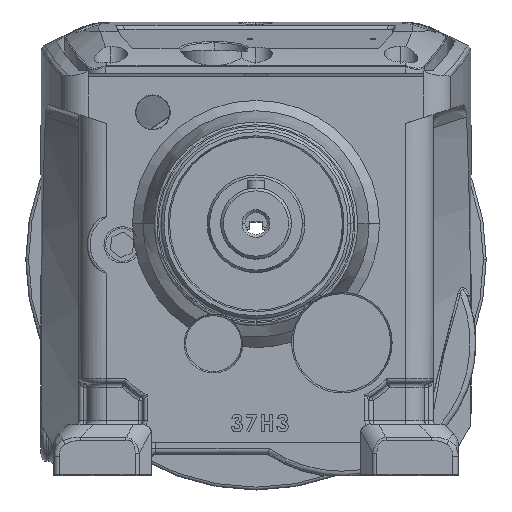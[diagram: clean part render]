
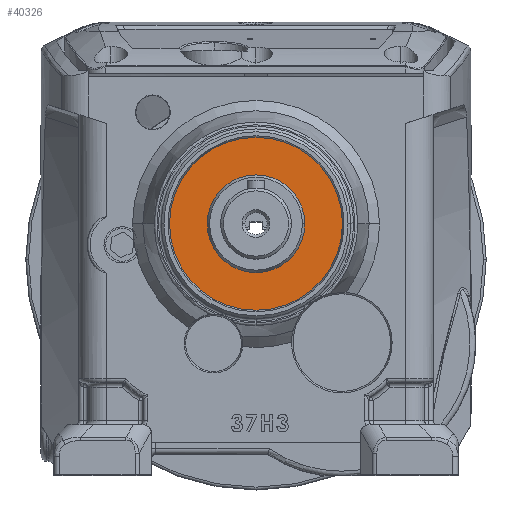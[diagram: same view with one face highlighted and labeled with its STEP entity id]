
A CAD part, top view. The second image highlights one B-rep face of the part: STEP entity #40326.
In plain terms, the highlighted planar face has unit normal (0, 0, 1).
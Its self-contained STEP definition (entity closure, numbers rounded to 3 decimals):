
#3004 = AXIS2_PLACEMENT_3D ( 'NONE', #45462, #45463, #45464 ) ;
#3454 = FACE_BOUND ( 'NONE', #4319, .T. ) ;
#3455 = FACE_OUTER_BOUND ( 'NONE', #4317, .T. ) ;
#4317 = EDGE_LOOP ( 'NONE', ( #44568, #44566 ) ) ;
#4319 = EDGE_LOOP ( 'NONE', ( #44559, #44564 ) ) ;
#11822 = VERTEX_POINT ( 'NONE', #21992 ) ;
#11824 = VERTEX_POINT ( 'NONE', #21995 ) ;
#11825 = VERTEX_POINT ( 'NONE', #21996 ) ;
#11826 = VERTEX_POINT ( 'NONE', #21998 ) ;
#19735 = CARTESIAN_POINT ( 'NONE',  ( 0., 87.5, 30. ) ) ;
#19736 = DIRECTION ( 'NONE',  ( 0., 0., 1. ) ) ;
#19737 = DIRECTION ( 'NONE',  ( 1., 0., 0. ) ) ;
#19923 = CARTESIAN_POINT ( 'NONE',  ( 0., 87.5, 30. ) ) ;
#19924 = DIRECTION ( 'NONE',  ( 0., 0., 1. ) ) ;
#19925 = DIRECTION ( 'NONE',  ( 1., 0., 0. ) ) ;
#21992 = CARTESIAN_POINT ( 'NONE',  ( -17.5, 87.5, 30. ) ) ;
#21995 = CARTESIAN_POINT ( 'NONE',  ( 17.5, 87.5, 30. ) ) ;
#21996 = CARTESIAN_POINT ( 'NONE',  ( 31., 87.5, 30. ) ) ;
#21998 = CARTESIAN_POINT ( 'NONE',  ( -31., 87.5, 30. ) ) ;
#35127 = CARTESIAN_POINT ( 'NONE',  ( 0., 87.5, 30. ) ) ;
#35128 = DIRECTION ( 'NONE',  ( 0., 0., 1. ) ) ;
#35129 = DIRECTION ( 'NONE',  ( 1., 0., 0. ) ) ;
#35911 = CIRCLE ( 'NONE', #35914, 31. ) ;
#35914 = AXIS2_PLACEMENT_3D ( 'NONE', #19923, #19924, #19925 ) ;
#37378 = CIRCLE ( 'NONE', #37379, 31. ) ;
#37379 = AXIS2_PLACEMENT_3D ( 'NONE', #46551, #46552, #46553 ) ;
#37736 = EDGE_CURVE ( 'NONE', #11825, #11826, #37378, .T. ) ;
#37893 = EDGE_CURVE ( 'NONE', #11822, #11824, #46029, .T. ) ;
#37930 = EDGE_CURVE ( 'NONE', #11824, #11822, #46080, .T. ) ;
#37978 = EDGE_CURVE ( 'NONE', #11826, #11825, #35911, .T. ) ;
#40326 = ADVANCED_FACE ( 'NONE', ( #3454, #3455 ), #45461, .F. ) ;
#44559 = ORIENTED_EDGE ( 'NONE', *, *, #37930, .F. ) ;
#44564 = ORIENTED_EDGE ( 'NONE', *, *, #37893, .F. ) ;
#44566 = ORIENTED_EDGE ( 'NONE', *, *, #37978, .T. ) ;
#44568 = ORIENTED_EDGE ( 'NONE', *, *, #37736, .T. ) ;
#45461 = PLANE ( 'NONE',  #3004 ) ;
#45462 = CARTESIAN_POINT ( 'NONE',  ( 0., 118.5, 30. ) ) ;
#45463 = DIRECTION ( 'NONE',  ( 0., 0., -1. ) ) ;
#45464 = DIRECTION ( 'NONE',  ( -1., 0., 0. ) ) ;
#46029 = CIRCLE ( 'NONE', #46053, 17.5 ) ;
#46053 = AXIS2_PLACEMENT_3D ( 'NONE', #35127, #35128, #35129 ) ;
#46080 = CIRCLE ( 'NONE', #46083, 17.5 ) ;
#46083 = AXIS2_PLACEMENT_3D ( 'NONE', #19735, #19736, #19737 ) ;
#46551 = CARTESIAN_POINT ( 'NONE',  ( 0., 87.5, 30. ) ) ;
#46552 = DIRECTION ( 'NONE',  ( 0., 0., 1. ) ) ;
#46553 = DIRECTION ( 'NONE',  ( 1., 0., 0. ) ) ;
